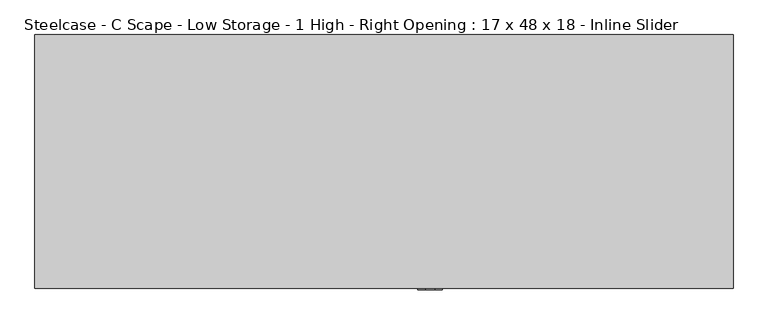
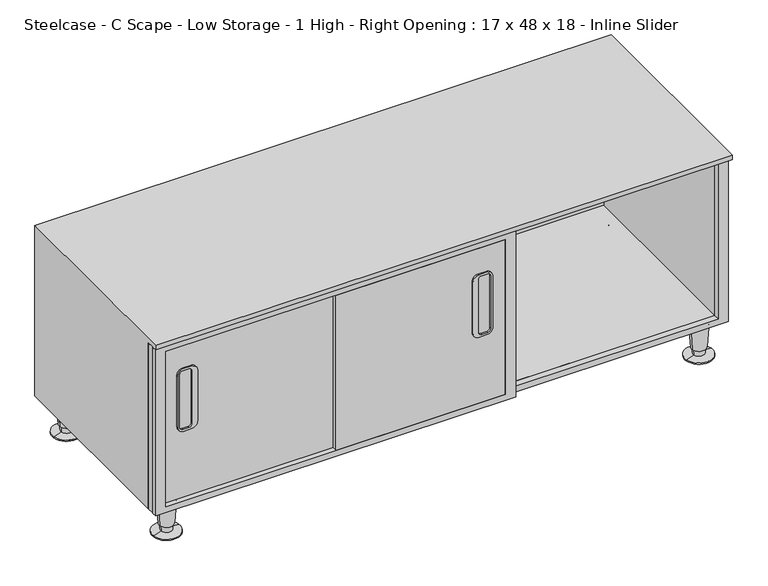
"""IFC4 building model written with IfcOpenShell, lengths in millimetres: furniture geometry, Steelcase - C Scape - Low Storage - 1 High - Right Opening : 17 x 48 x 18 - Inline Slider."""

from ifc_helpers import new_model, si_unit, point, frame, frame_2d, origin, place, context, project, spatial, polyline, circle_curve, trimmed, segment, composite_curve, outline, extrude, faceted_brep, source, transform, mapped, element, save
from ifc_brep_helpers import plane_surface, cylinder_surface, revolved_surface, advanced_brep


def steelcase_c_scape_low_storage_1_high_right_opening_17_x_48_x_d263abf5(model_context):
    return source(origin(), model_context, "Body", "SolidModel", [
        extrude(outline(composite_curve([segment(polyline([(252.0477875, 92.5838406), (366.3446809, 92.5838406)]), True, "CONTINUOUS"), segment(trimmed(circle_curve(frame_2d((366.3446809, 79.8822903)), 12.7015503), [point((366.3446809, 92.5838406))], [point((379.0462312, 79.8822903))], False, "CARTESIAN"), True, "CONTINUOUS"), segment(polyline([(379.0462312, 79.8822903), (379.0462312, 62.9926235)]), True, "CONTINUOUS"), segment(trimmed(circle_curve(frame_2d((366.3470063, 62.9926235)), 12.6992249), [point((379.0462312, 62.9926235))], [point((366.3470063, 50.2933987))], False, "CARTESIAN"), True, "CONTINUOUS"), segment(polyline([(366.3470063, 50.2933987), (252.0454621, 50.2933987)]), True, "CONTINUOUS"), segment(trimmed(circle_curve(frame_2d((252.0454621, 62.9926235)), 12.6992249), [point((252.0454621, 50.2933987))], [point((239.3462372, 62.9926235))], False, "CARTESIAN"), True, "CONTINUOUS"), segment(polyline([(239.3462372, 62.9926235), (239.3462372, 79.8822903)]), True, "CONTINUOUS"), segment(trimmed(circle_curve(frame_2d((252.0477875, 79.8822903)), 12.7015503), [point((239.3462372, 79.8822903))], [point((252.0477875, 92.5838406))], False, "CARTESIAN"), True, "CONTINUOUS")], self_intersect=False), holes=[composite_curve([segment(polyline([(367.8674077, 80.5194607), (250.520973, 80.5194607)]), True, "CONTINUOUS"), segment(trimmed(circle_curve(frame_2d((250.520973, 74.1686855)), 6.3507751), [point((250.520973, 80.5194607))], [point((244.1701979, 74.1686855))], True, "CARTESIAN"), True, "CONTINUOUS"), segment(polyline([(244.1701979, 74.1686855), (244.1701979, 61.4694607)]), True, "CONTINUOUS"), segment(trimmed(circle_curve(frame_2d((250.520973, 61.4694607)), 6.3507751), [point((244.1701979, 61.4694607))], [point((250.520973, 55.1186855))], True, "CARTESIAN"), True, "CONTINUOUS"), segment(polyline([(250.520973, 55.1186855), (367.8682071, 55.1186855)]), True, "CONTINUOUS"), segment(trimmed(circle_curve(frame_2d((367.8682071, 61.4686613)), 6.3499758), [point((367.8682071, 55.1186855))], [point((374.2181828, 61.4686613))], True, "CARTESIAN"), True, "CONTINUOUS"), segment(polyline([(374.2181828, 61.4686613), (374.2181828, 74.1686855)]), True, "CONTINUOUS"), segment(trimmed(circle_curve(frame_2d((367.8674077, 74.1686855)), 6.3507751), [point((374.2181828, 74.1686855))], [point((367.8674077, 80.5194607))], True, "CARTESIAN"), True, "CONTINUOUS")], self_intersect=False)]), frame((0.0, -434.9938416, 0.0), z_axis=(0.0, 1.0, 0.0), x_axis=(0.0, 0.0, 1.0)), (0.0, 0.0, 1.0), 2.9398416),
        extrude(outline(composite_curve([segment(trimmed(circle_curve(frame_2d((252.0477875, 680.8480198)), 12.7015503), [point((252.0477875, 668.1464695))], [point((239.3462372, 680.8480198))], False, "CARTESIAN"), True, "CONTINUOUS"), segment(polyline([(239.3462372, 680.8480198), (239.3462372, 697.7376865)]), True, "CONTINUOUS"), segment(trimmed(circle_curve(frame_2d((252.0454621, 697.7376865)), 12.6992249), [point((239.3462372, 697.7376865))], [point((252.0454621, 710.4369114))], False, "CARTESIAN"), True, "CONTINUOUS"), segment(polyline([(252.0454621, 710.4369114), (366.3470063, 710.4369114)]), True, "CONTINUOUS"), segment(trimmed(circle_curve(frame_2d((366.3470063, 697.7376865)), 12.6992249), [point((366.3470063, 710.4369114))], [point((379.0462312, 697.7376865))], False, "CARTESIAN"), True, "CONTINUOUS"), segment(polyline([(379.0462312, 697.7376865), (379.0462312, 680.8480198)]), True, "CONTINUOUS"), segment(trimmed(circle_curve(frame_2d((366.3446809, 680.8480198)), 12.7015503), [point((379.0462312, 680.8480198))], [point((366.3446809, 668.1464695))], False, "CARTESIAN"), True, "CONTINUOUS"), segment(polyline([(366.3446809, 668.1464695), (252.0477875, 668.1464695)]), True, "CONTINUOUS")], self_intersect=False), holes=[composite_curve([segment(trimmed(circle_curve(frame_2d((367.8674077, 686.5616245)), 6.3507751), [point((367.8674077, 680.2108494))], [point((374.2181828, 686.5616245))], True, "CARTESIAN"), True, "CONTINUOUS"), segment(polyline([(374.2181828, 686.5616245), (374.2181828, 699.2616487)]), True, "CONTINUOUS"), segment(trimmed(circle_curve(frame_2d((367.8682071, 699.2616487)), 6.3499758), [point((374.2181828, 699.2616487))], [point((367.8682071, 705.6116245))], True, "CARTESIAN"), True, "CONTINUOUS"), segment(polyline([(367.8682071, 705.6116245), (250.520973, 705.6116245)]), True, "CONTINUOUS"), segment(trimmed(circle_curve(frame_2d((250.520973, 699.2608494)), 6.3507751), [point((250.520973, 705.6116245))], [point((244.1701979, 699.2608494))], True, "CARTESIAN"), True, "CONTINUOUS"), segment(polyline([(244.1701979, 699.2608494), (244.1701979, 686.5616245)]), True, "CONTINUOUS"), segment(trimmed(circle_curve(frame_2d((250.520973, 686.5616245)), 6.3507751), [point((244.1701979, 686.5616245))], [point((250.520973, 680.2108494))], True, "CARTESIAN"), True, "CONTINUOUS"), segment(polyline([(250.520973, 680.2108494), (367.8674077, 680.2108494)]), True, "CONTINUOUS")], self_intersect=False)]), frame((0.0, -445.6971973, 0.0), z_axis=(0.0, 1.0, 0.0), x_axis=(0.0, 0.0, 1.0)), (0.0, 0.0, 1.0), 3.1021198),
        extrude(outline(polyline([(447.0400097, 760.7303101), (447.0400097, 0.0), (76.2, 0.0), (76.2, 760.7303101), (447.0400097, 760.7303101)]), holes=[polyline([(89.5349964, 21.3382324), (436.2449927, 21.3382324), (436.2449927, 738.3783101), (89.5349964, 738.3783101), (89.5349964, 21.3382324)])]), frame((0.0, -442.5950775, 0.0), z_axis=(0.0, 1.0, 0.0), x_axis=(0.0, 0.0, 1.0)), (0.0, 0.0, 1.0), 10.5410775),
        extrude(outline(polyline([(447.0400097, 0.0), (76.2, 0.0), (76.2, 1217.9313237), (447.0400097, 1217.9313237), (447.0400097, 0.0)]), holes=[polyline([(89.5349964, 1196.5930912), (89.5349964, 21.3382324), (436.2449927, 21.3382324), (436.2449927, 1196.5930912), (89.5349964, 1196.5930912)])]), frame((0.0, -428.8790543, 0.0), z_axis=(0.0, 1.0, 0.0), x_axis=(0.0, 0.0, 1.0)), (0.0, 0.0, 1.0), 13.587814),
        advanced_brep(
        [(1190.6611931, -31.5218435, 76.2), (1152.9994542, -37.2840847, 76.2), (1171.8303237, -34.4029641, 76.2), (1186.7108451, -32.1262463, 19.05), (1156.9498022, -36.6796819, 19.05), (1184.2812581, -32.4979728, 19.05), (1159.3793892, -36.3079555, 19.05), (1183.5924887, -32.6033544, 5.7545598), (1160.0681586, -36.2025738, 5.7545598), (1200.9413721, -29.9489775, 2.5119506), (1142.7192752, -38.8569507, 2.5119506), (1200.9413721, -29.9489775, 0.0), (1142.7192752, -38.8569507, 0.0), (1171.8303237, -34.4029641, 0.0)],
        [
            (0, 1, circle_curve(frame((1171.8303237, -34.4029641, 76.2), z_axis=(0.0, 0.0, 1.0), x_axis=(0.0, -1.0, 0.0)), 19.05)),
            (1, 2),
            (2, 0),
            (1, 0, circle_curve(frame((1171.8303237, -34.4029641, 76.2), z_axis=(0.0, 0.0, 1.0), x_axis=(0.0, -1.0, 0.0)), 19.05)),
            (3, 4, circle_curve(frame((1171.8303237, -34.4029641, 19.05), z_axis=(0.0, 0.0, 1.0), x_axis=(0.0, -1.0, 0.0)), 15.0536827)),
            (4, 1),
            (0, 3),
            (4, 3, circle_curve(frame((1171.8303237, -34.4029641, 19.05), z_axis=(0.0, 0.0, 1.0), x_axis=(0.0, -1.0, 0.0)), 15.0536827)),
            (5, 6, circle_curve(frame((1171.8303237, -34.4029641, 19.05), z_axis=(0.0, 0.0, 1.0), x_axis=(0.0, -1.0, 0.0)), 12.5958232)),
            (6, 4),
            (3, 5),
            (6, 5, circle_curve(frame((1171.8303237, -34.4029641, 19.05), z_axis=(0.0, 0.0, 1.0), x_axis=(0.0, -1.0, 0.0)), 12.5958232)),
            (7, 8, circle_curve(frame((1171.8303237, -34.4029641, 5.7545598), z_axis=(0.0, 0.0, 1.0), x_axis=(0.0, -1.0, 0.0)), 11.8990387)),
            (8, 6),
            (5, 7),
            (8, 7, circle_curve(frame((1171.8303237, -34.4029641, 5.7545598), z_axis=(0.0, 0.0, 1.0), x_axis=(0.0, -1.0, 0.0)), 11.8990387)),
            (9, 10, circle_curve(frame((1171.8303237, -34.4029641, 2.5119506), z_axis=(0.0, 0.0, 1.0), x_axis=(0.0, -1.0, 0.0)), 29.4498071)),
            (10, 8),
            (7, 9),
            (10, 9, circle_curve(frame((1171.8303237, -34.4029641, 2.5119506), z_axis=(0.0, 0.0, 1.0), x_axis=(0.0, -1.0, 0.0)), 29.4498071)),
            (11, 12, circle_curve(frame((1171.8303237, -34.4029641, 0.0), z_axis=(0.0, 0.0, 1.0), x_axis=(0.0, -1.0, 0.0)), 29.4498071)),
            (12, 10),
            (9, 11),
            (12, 11, circle_curve(frame((1171.8303237, -34.4029641, 0.0), z_axis=(0.0, 0.0, 1.0), x_axis=(0.0, -1.0, 0.0)), 29.4498071)),
            (13, 12),
            (11, 13),
        ],
        [
            plane_surface(frame((1171.8303237, -34.4029641, 76.2), z_axis=(0.0, 0.0, 1.0), x_axis=(0.0, -1.0, 0.0))),
            revolved_surface(polyline([(1171.8303237, -53.4529641, 76.2), (1171.8303237, -49.4566468, 19.05)]), (1171.8303237, -34.4029641, 25.4), (0.0, 0.0, -1.0)),
            plane_surface(frame((1171.8303237, -34.4029641, 19.05), z_axis=(0.0, 0.0, -1.0), x_axis=(0.0, -1.0, 0.0))),
            revolved_surface(polyline([(1171.8303237, -46.9987873, 19.05), (1171.8303237, -46.3020028, 5.7545598)]), (1171.8303237, -34.4029641, 25.4), (0.0, 0.0, -1.0)),
            revolved_surface(polyline([(1171.8303237, -46.3020028, 5.7545598), (1171.8303237, -63.8527712, 2.5119506)]), (1171.8303237, -34.4029641, 25.4), (0.0, 0.0, -1.0)),
            cylinder_surface(frame((1171.8303237, -34.4029641, 25.4), z_axis=(0.0, 0.0, -1.0), x_axis=(0.0, -1.0, 0.0)), 29.4498071),
            plane_surface(frame((1171.8303237, -34.4029641, 0.0), z_axis=(0.0, 0.0, -1.0), x_axis=(0.0, -1.0, 0.0))),
        ],
        [
            (0, [[1, 2, 3]]),
            (0, [[4, -3, -2]]),
            (1, [[5, 6, -1, 7]]),
            (1, [[8, -7, -4, -6]]),
            (2, [[9, 10, -5, 11]]),
            (2, [[12, -11, -8, -10]]),
            (3, [[13, 14, -9, 15]]),
            (3, [[16, -15, -12, -14]]),
            (4, [[17, 18, -13, 19]]),
            (4, [[20, -19, -16, -18]]),
            (5, [[21, 22, -17, 23]]),
            (5, [[24, -23, -20, -22]]),
            (6, [[25, -21, 26]]),
            (6, [[-26, -24, -25]]),
        ],
    ),
        advanced_brep(
        [(1190.6611931, -397.1702762, 76.2), (1152.9994542, -402.9325174, 76.2), (1171.8303237, -400.0513968, 76.2), (1186.7108451, -397.774679, 19.05), (1156.9498022, -402.3281146, 19.05), (1184.2812581, -398.1464055, 19.05), (1159.3793892, -401.9563882, 19.05), (1183.5924887, -398.2517871, 5.7545598), (1160.0681586, -401.8510065, 5.7545598), (1200.9413721, -395.5974102, 2.5119506), (1142.7192752, -404.5053834, 2.5119506), (1200.9413721, -395.5974102, 0.0), (1142.7192752, -404.5053834, 0.0), (1171.8303237, -400.0513968, 0.0)],
        [
            (0, 1, circle_curve(frame((1171.8303237, -400.0513968, 76.2), z_axis=(0.0, 0.0, 1.0), x_axis=(0.0, -1.0, 0.0)), 19.05)),
            (1, 2),
            (2, 0),
            (1, 0, circle_curve(frame((1171.8303237, -400.0513968, 76.2), z_axis=(0.0, 0.0, 1.0), x_axis=(0.0, -1.0, 0.0)), 19.05)),
            (3, 4, circle_curve(frame((1171.8303237, -400.0513968, 19.05), z_axis=(0.0, 0.0, 1.0), x_axis=(0.0, -1.0, 0.0)), 15.0536827)),
            (4, 1),
            (0, 3),
            (4, 3, circle_curve(frame((1171.8303237, -400.0513968, 19.05), z_axis=(0.0, 0.0, 1.0), x_axis=(0.0, -1.0, 0.0)), 15.0536827)),
            (5, 6, circle_curve(frame((1171.8303237, -400.0513968, 19.05), z_axis=(0.0, 0.0, 1.0), x_axis=(0.0, -1.0, 0.0)), 12.5958232)),
            (6, 4),
            (3, 5),
            (6, 5, circle_curve(frame((1171.8303237, -400.0513968, 19.05), z_axis=(0.0, 0.0, 1.0), x_axis=(0.0, -1.0, 0.0)), 12.5958232)),
            (7, 8, circle_curve(frame((1171.8303237, -400.0513968, 5.7545598), z_axis=(0.0, 0.0, 1.0), x_axis=(0.0, -1.0, 0.0)), 11.8990387)),
            (8, 6),
            (5, 7),
            (8, 7, circle_curve(frame((1171.8303237, -400.0513968, 5.7545598), z_axis=(0.0, 0.0, 1.0), x_axis=(0.0, -1.0, 0.0)), 11.8990387)),
            (9, 10, circle_curve(frame((1171.8303237, -400.0513968, 2.5119506), z_axis=(0.0, 0.0, 1.0), x_axis=(0.0, -1.0, 0.0)), 29.4498071)),
            (10, 8),
            (7, 9),
            (10, 9, circle_curve(frame((1171.8303237, -400.0513968, 2.5119506), z_axis=(0.0, 0.0, 1.0), x_axis=(0.0, -1.0, 0.0)), 29.4498071)),
            (11, 12, circle_curve(frame((1171.8303237, -400.0513968, 0.0), z_axis=(0.0, 0.0, 1.0), x_axis=(0.0, -1.0, 0.0)), 29.4498071)),
            (12, 10),
            (9, 11),
            (12, 11, circle_curve(frame((1171.8303237, -400.0513968, 0.0), z_axis=(0.0, 0.0, 1.0), x_axis=(0.0, -1.0, 0.0)), 29.4498071)),
            (13, 12),
            (11, 13),
        ],
        [
            plane_surface(frame((1171.8303237, -400.0513968, 76.2), z_axis=(0.0, 0.0, 1.0), x_axis=(0.0, -1.0, 0.0))),
            revolved_surface(polyline([(1171.8303237, -419.1013968, 76.2), (1171.8303237, -415.1050795, 19.05)]), (1171.8303237, -400.0513968, 25.4), (0.0, 0.0, -1.0)),
            plane_surface(frame((1171.8303237, -400.0513968, 19.05), z_axis=(0.0, 0.0, -1.0), x_axis=(0.0, -1.0, 0.0))),
            revolved_surface(polyline([(1171.8303237, -412.64722, 19.05), (1171.8303237, -411.9504355, 5.7545598)]), (1171.8303237, -400.0513968, 25.4), (0.0, 0.0, -1.0)),
            revolved_surface(polyline([(1171.8303237, -411.9504355, 5.7545598), (1171.8303237, -429.5012039, 2.5119506)]), (1171.8303237, -400.0513968, 25.4), (0.0, 0.0, -1.0)),
            cylinder_surface(frame((1171.8303237, -400.0513968, 25.4), z_axis=(0.0, 0.0, -1.0), x_axis=(0.0, -1.0, 0.0)), 29.4498071),
            plane_surface(frame((1171.8303237, -400.0513968, 0.0), z_axis=(0.0, 0.0, -1.0), x_axis=(0.0, -1.0, 0.0))),
        ],
        [
            (0, [[1, 2, 3]]),
            (0, [[4, -3, -2]]),
            (1, [[5, 6, -1, 7]]),
            (1, [[8, -7, -4, -6]]),
            (2, [[9, 10, -5, 11]]),
            (2, [[12, -11, -8, -10]]),
            (3, [[13, 14, -9, 15]]),
            (3, [[16, -15, -12, -14]]),
            (4, [[17, 18, -13, 19]]),
            (4, [[20, -19, -16, -18]]),
            (5, [[21, 22, -17, 23]]),
            (5, [[24, -23, -20, -22]]),
            (6, [[25, -21, 26]]),
            (6, [[-26, -24, -25]]),
        ],
    ),
        advanced_brep(
        [(65.5422821, -397.1702762, 76.2), (27.8805432, -402.9325174, 76.2), (46.7114126, -400.0513968, 76.2), (61.5919341, -397.774679, 19.05), (31.8308912, -402.3281146, 19.05), (59.1623471, -398.1464055, 19.05), (34.2604781, -401.9563882, 19.05), (58.4735776, -398.2517871, 5.7545598), (34.9492476, -401.8510065, 5.7545598), (75.8224611, -395.5974102, 2.5119506), (17.6003641, -404.5053834, 2.5119506), (75.8224611, -395.5974102, 0.0), (17.6003641, -404.5053834, 0.0), (46.7114126, -400.0513968, 0.0)],
        [
            (0, 1, circle_curve(frame((46.7114126, -400.0513968, 76.2), z_axis=(0.0, 0.0, 1.0), x_axis=(0.0, -1.0, 0.0)), 19.05)),
            (1, 2),
            (2, 0),
            (1, 0, circle_curve(frame((46.7114126, -400.0513968, 76.2), z_axis=(0.0, 0.0, 1.0), x_axis=(0.0, -1.0, 0.0)), 19.05)),
            (3, 4, circle_curve(frame((46.7114126, -400.0513968, 19.05), z_axis=(0.0, 0.0, 1.0), x_axis=(0.0, -1.0, 0.0)), 15.0536827)),
            (4, 1),
            (0, 3),
            (4, 3, circle_curve(frame((46.7114126, -400.0513968, 19.05), z_axis=(0.0, 0.0, 1.0), x_axis=(0.0, -1.0, 0.0)), 15.0536827)),
            (5, 6, circle_curve(frame((46.7114126, -400.0513968, 19.05), z_axis=(0.0, 0.0, 1.0), x_axis=(0.0, -1.0, 0.0)), 12.5958232)),
            (6, 4),
            (3, 5),
            (6, 5, circle_curve(frame((46.7114126, -400.0513968, 19.05), z_axis=(0.0, 0.0, 1.0), x_axis=(0.0, -1.0, 0.0)), 12.5958232)),
            (7, 8, circle_curve(frame((46.7114126, -400.0513968, 5.7545598), z_axis=(0.0, 0.0, 1.0), x_axis=(0.0, -1.0, 0.0)), 11.8990387)),
            (8, 6),
            (5, 7),
            (8, 7, circle_curve(frame((46.7114126, -400.0513968, 5.7545598), z_axis=(0.0, 0.0, 1.0), x_axis=(0.0, -1.0, 0.0)), 11.8990387)),
            (9, 10, circle_curve(frame((46.7114126, -400.0513968, 2.5119506), z_axis=(0.0, 0.0, 1.0), x_axis=(0.0, -1.0, 0.0)), 29.4498071)),
            (10, 8),
            (7, 9),
            (10, 9, circle_curve(frame((46.7114126, -400.0513968, 2.5119506), z_axis=(0.0, 0.0, 1.0), x_axis=(0.0, -1.0, 0.0)), 29.4498071)),
            (11, 12, circle_curve(frame((46.7114126, -400.0513968, 0.0), z_axis=(0.0, 0.0, 1.0), x_axis=(0.0, -1.0, 0.0)), 29.4498071)),
            (12, 10),
            (9, 11),
            (12, 11, circle_curve(frame((46.7114126, -400.0513968, 0.0), z_axis=(0.0, 0.0, 1.0), x_axis=(0.0, -1.0, 0.0)), 29.4498071)),
            (13, 12),
            (11, 13),
        ],
        [
            plane_surface(frame((46.7114126, -400.0513968, 76.2), z_axis=(0.0, 0.0, 1.0), x_axis=(0.0, -1.0, 0.0))),
            revolved_surface(polyline([(46.7114126, -419.1013968, 76.2), (46.7114126, -415.1050795, 19.05)]), (46.7114126, -400.0513968, 25.4), (0.0, 0.0, -1.0)),
            plane_surface(frame((46.7114126, -400.0513968, 19.05), z_axis=(0.0, 0.0, -1.0), x_axis=(0.0, -1.0, 0.0))),
            revolved_surface(polyline([(46.7114126, -412.64722, 19.05), (46.7114126, -411.9504355, 5.7545598)]), (46.7114126, -400.0513968, 25.4), (0.0, 0.0, -1.0)),
            revolved_surface(polyline([(46.7114126, -411.9504355, 5.7545598), (46.7114126, -429.5012039, 2.5119506)]), (46.7114126, -400.0513968, 25.4), (0.0, 0.0, -1.0)),
            cylinder_surface(frame((46.7114126, -400.0513968, 25.4), z_axis=(0.0, 0.0, -1.0), x_axis=(0.0, -1.0, 0.0)), 29.4498071),
            plane_surface(frame((46.7114126, -400.0513968, 0.0), z_axis=(0.0, 0.0, -1.0), x_axis=(0.0, -1.0, 0.0))),
        ],
        [
            (0, [[1, 2, 3]]),
            (0, [[4, -3, -2]]),
            (1, [[5, 6, -1, 7]]),
            (1, [[8, -7, -4, -6]]),
            (2, [[9, 10, -5, 11]]),
            (2, [[12, -11, -8, -10]]),
            (3, [[13, 14, -9, 15]]),
            (3, [[16, -15, -12, -14]]),
            (4, [[17, 18, -13, 19]]),
            (4, [[20, -19, -16, -18]]),
            (5, [[21, 22, -17, 23]]),
            (5, [[24, -23, -20, -22]]),
            (6, [[25, -21, 26]]),
            (6, [[-26, -24, -25]]),
        ],
    ),
        advanced_brep(
        [(65.5422821, -31.5218435, 76.2), (27.8805432, -37.2840847, 76.2), (46.7114126, -34.4029641, 76.2), (61.5919341, -32.1262463, 19.05), (31.8308912, -36.6796819, 19.05), (59.1623471, -32.4979728, 19.05), (34.2604781, -36.3079555, 19.05), (58.4735776, -32.6033544, 5.7545598), (34.9492476, -36.2025738, 5.7545598), (75.8224611, -29.9489775, 2.5119506), (17.6003641, -38.8569507, 2.5119506), (75.8224611, -29.9489775, 0.0), (17.6003641, -38.8569507, 0.0), (46.7114126, -34.4029641, 0.0)],
        [
            (0, 1, circle_curve(frame((46.7114126, -34.4029641, 76.2), z_axis=(0.0, 0.0, 1.0), x_axis=(0.0, -1.0, 0.0)), 19.05)),
            (1, 2),
            (2, 0),
            (1, 0, circle_curve(frame((46.7114126, -34.4029641, 76.2), z_axis=(0.0, 0.0, 1.0), x_axis=(0.0, -1.0, 0.0)), 19.05)),
            (3, 4, circle_curve(frame((46.7114126, -34.4029641, 19.05), z_axis=(0.0, 0.0, 1.0), x_axis=(0.0, -1.0, 0.0)), 15.0536827)),
            (4, 1),
            (0, 3),
            (4, 3, circle_curve(frame((46.7114126, -34.4029641, 19.05), z_axis=(0.0, 0.0, 1.0), x_axis=(0.0, -1.0, 0.0)), 15.0536827)),
            (5, 6, circle_curve(frame((46.7114126, -34.4029641, 19.05), z_axis=(0.0, 0.0, 1.0), x_axis=(0.0, -1.0, 0.0)), 12.5958232)),
            (6, 4),
            (3, 5),
            (6, 5, circle_curve(frame((46.7114126, -34.4029641, 19.05), z_axis=(0.0, 0.0, 1.0), x_axis=(0.0, -1.0, 0.0)), 12.5958232)),
            (7, 8, circle_curve(frame((46.7114126, -34.4029641, 5.7545598), z_axis=(0.0, 0.0, 1.0), x_axis=(0.0, -1.0, 0.0)), 11.8990387)),
            (8, 6),
            (5, 7),
            (8, 7, circle_curve(frame((46.7114126, -34.4029641, 5.7545598), z_axis=(0.0, 0.0, 1.0), x_axis=(0.0, -1.0, 0.0)), 11.8990387)),
            (9, 10, circle_curve(frame((46.7114126, -34.4029641, 2.5119506), z_axis=(0.0, 0.0, 1.0), x_axis=(0.0, -1.0, 0.0)), 29.4498071)),
            (10, 8),
            (7, 9),
            (10, 9, circle_curve(frame((46.7114126, -34.4029641, 2.5119506), z_axis=(0.0, 0.0, 1.0), x_axis=(0.0, -1.0, 0.0)), 29.4498071)),
            (11, 12, circle_curve(frame((46.7114126, -34.4029641, 0.0), z_axis=(0.0, 0.0, 1.0), x_axis=(0.0, -1.0, 0.0)), 29.4498071)),
            (12, 10),
            (9, 11),
            (12, 11, circle_curve(frame((46.7114126, -34.4029641, 0.0), z_axis=(0.0, 0.0, 1.0), x_axis=(0.0, -1.0, 0.0)), 29.4498071)),
            (13, 12),
            (11, 13),
        ],
        [
            plane_surface(frame((46.7114126, -34.4029641, 76.2), z_axis=(0.0, 0.0, 1.0), x_axis=(0.0, -1.0, 0.0))),
            revolved_surface(polyline([(46.7114126, -53.4529641, 76.2), (46.7114126, -49.4566468, 19.05)]), (46.7114126, -34.4029641, 25.4), (0.0, 0.0, -1.0)),
            plane_surface(frame((46.7114126, -34.4029641, 19.05), z_axis=(0.0, 0.0, -1.0), x_axis=(0.0, -1.0, 0.0))),
            revolved_surface(polyline([(46.7114126, -46.9987873, 19.05), (46.7114126, -46.3020028, 5.7545598)]), (46.7114126, -34.4029641, 25.4), (0.0, 0.0, -1.0)),
            revolved_surface(polyline([(46.7114126, -46.3020028, 5.7545598), (46.7114126, -63.8527712, 2.5119506)]), (46.7114126, -34.4029641, 25.4), (0.0, 0.0, -1.0)),
            cylinder_surface(frame((46.7114126, -34.4029641, 25.4), z_axis=(0.0, 0.0, -1.0), x_axis=(0.0, -1.0, 0.0)), 29.4498071),
            plane_surface(frame((46.7114126, -34.4029641, 0.0), z_axis=(0.0, 0.0, -1.0), x_axis=(0.0, -1.0, 0.0))),
        ],
        [
            (0, [[1, 2, 3]]),
            (0, [[4, -3, -2]]),
            (1, [[5, 6, -1, 7]]),
            (1, [[8, -7, -4, -6]]),
            (2, [[9, 10, -5, 11]]),
            (2, [[12, -11, -8, -10]]),
            (3, [[13, 14, -9, 15]]),
            (3, [[16, -15, -12, -14]]),
            (4, [[17, 18, -13, 19]]),
            (4, [[20, -19, -16, -18]]),
            (5, [[21, 22, -17, 23]]),
            (5, [[24, -23, -20, -22]]),
            (6, [[25, -21, 26]]),
            (6, [[-26, -24, -25]]),
        ],
    ),
        faceted_brep([(1217.9313237, 0.0, 76.2), (0.0, 0.0, 76.2), (0.0, 0.0, 457.2), (1217.9313237, 0.0, 457.2), (0.0, -415.2912402, 76.2), (0.0, -415.2912402, 447.0400097), (0.0, -442.5950775, 447.0400097), (0.0, -442.5950775, 457.2), (21.3382324, -9.525, 447.0400097), (21.3382324, -415.2912402, 447.0400097), (21.3382324, -415.2912402, 89.5349964), (21.3382324, -9.525, 89.5349964), (738.3783101, -9.525, 447.0400097), (738.3783101, -9.525, 89.5349964), (738.3783101, -428.8790543, 76.2), (738.3783101, -428.8790543, 447.0400097), (738.3783101, -415.2912402, 89.5349964), (738.3783101, -415.2912402, 76.2), (760.7303101, -428.8790543, 447.0400097), (760.7303101, -428.8790543, 76.2), (760.7303101, -415.2912402, 76.2), (760.7303101, -415.2912402, 89.5349964), (760.7303101, -9.525, 89.5349964), (760.7303101, -9.525, 447.0400097), (1196.5930912, -9.525, 447.0400097), (1196.5930912, -9.525, 89.5349964), (1196.5930912, -415.2912402, 447.0400097), (1196.5930912, -415.2912402, 89.5349964), (1217.9313237, -415.2912402, 76.2), (1217.9313237, -442.5950775, 457.2), (1217.9313237, -442.5950775, 447.0400097), (1217.9313237, -415.2912402, 447.0400097)], [[[0, 1, 2, 3]], [[1, 4, 5, 6, 7, 2]], [[8, 9, 10, 11]], [[12, 8, 11, 13]], [[14, 15, 12, 13, 16, 17]], [[18, 19, 20, 21, 22, 23]], [[24, 23, 22, 25]], [[26, 24, 25, 27]], [[28, 0, 3, 29, 30, 31]], [[3, 2, 7, 29]], [[30, 6, 5, 9, 8, 12, 15, 18, 23, 24, 26, 31]], [[10, 16, 13, 11]], [[21, 27, 25, 22]], [[0, 28, 20, 19, 14, 17, 4, 1]], [[20, 28, 31, 26, 27, 21]], [[4, 17, 16, 10, 9, 5]], [[14, 19, 18, 15]], [[29, 7, 6, 30]]]),
        extrude(outline(polyline([(380.365155, -432.054), (738.3783101, -432.054), (738.3783101, -442.5950775), (380.365155, -442.5950775), (380.365155, -432.054)])), frame((0.0, 0.0, 89.5349964), z_axis=(0.0, 0.0, 1.0), x_axis=(1.0, 0.0, 0.0)), (0.0, 0.0, 1.0), 346.7099964),
        extrude(outline(polyline([(380.365155, -432.054), (21.3382324, -432.054), (21.3382324, -426.7186111), (380.365155, -426.7186111), (380.365155, -432.054)])), frame((0.0, 0.0, 89.5349964), z_axis=(0.0, 0.0, 1.0), x_axis=(1.0, 0.0, 0.0)), (0.0, 0.0, 1.0), 346.7099964),
    ])


if __name__ == "__main__":
    model = new_model("IFC4")
    model_context = context("Model", 3, world=origin())
    ifc_project = project(units=[si_unit("LENGTHUNIT", "METRE", prefix="MILLI")], contexts=[model_context])
    site = spatial("IfcSite", under=ifc_project)
    building = spatial("IfcBuilding", under=site)
    placement = place(None, origin())
    steelcase_c_scape_low_storage_1_high_right_opening_17_x_48_x_shape = steelcase_c_scape_low_storage_1_high_right_opening_17_x_48_x_d263abf5(model_context)
    element("IfcFurniture", 1, ObjectType="Steelcase - C Scape - Low Storage - 1 High - Right Opening : 17 x 48 x 18 - Inline Slider", at=placement, inside=building, context=model_context, shape_type="MappedRepresentation", body=[
        mapped(steelcase_c_scape_low_storage_1_high_right_opening_17_x_48_x_shape, transform((0.0, 0.0, 0.0), x_axis=(1.0, 0.0, 0.0), y_axis=(0.0, 1.0, 0.0), z_axis=(0.0, 0.0, 1.0))),
    ])
    save(model, "model.ifc")
